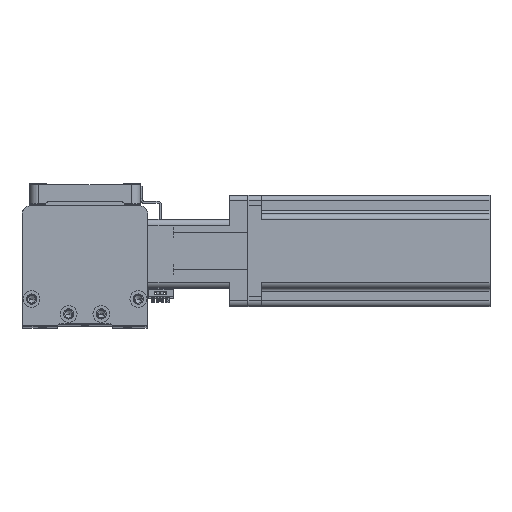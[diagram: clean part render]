
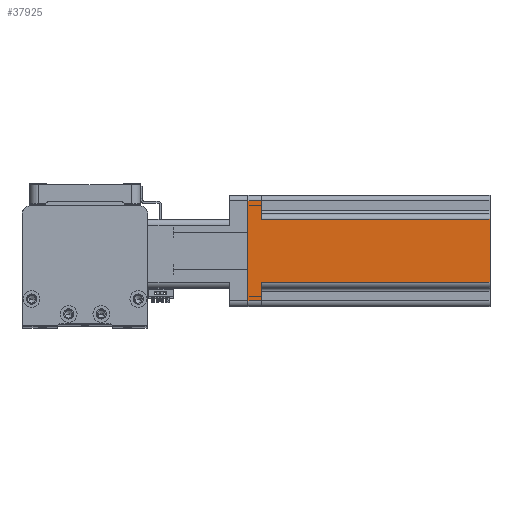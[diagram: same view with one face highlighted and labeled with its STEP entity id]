
A CAD part, top view. The second image highlights one B-rep face of the part: STEP entity #37925.
In plain terms, the highlighted planar face has unit normal (0, 0, 1) as drawn and (1, 0, 0) by its records, which use the part's own axes.
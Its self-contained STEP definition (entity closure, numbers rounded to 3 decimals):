
#374 = VERTEX_POINT ( 'NONE', #38962 ) ;
#1059 = DIRECTION ( 'NONE',  ( 0., 0., -1. ) ) ;
#1097 = LINE ( 'NONE', #6061, #34954 ) ;
#1336 = EDGE_LOOP ( 'NONE', ( #28792, #39660, #22031, #8947, #34646, #23848, #43478, #38681 ) ) ;
#3037 = CARTESIAN_POINT ( 'NONE',  ( 30., 17., 7.5 ) ) ;
#3588 = VERTEX_POINT ( 'NONE', #37634 ) ;
#4788 = DIRECTION ( 'NONE',  ( -1., 0., 0. ) ) ;
#6061 = CARTESIAN_POINT ( 'NONE',  ( 30., 30., 7.5 ) ) ;
#6406 = EDGE_CURVE ( 'NONE', #12796, #17357, #24557, .T. ) ;
#6485 = LINE ( 'NONE', #10584, #24462 ) ;
#6598 = VERTEX_POINT ( 'NONE', #21945 ) ;
#7823 = EDGE_CURVE ( 'NONE', #26651, #6598, #19161, .T. ) ;
#8011 = DIRECTION ( 'NONE',  ( 0., 1., 0. ) ) ;
#8170 = EDGE_CURVE ( 'NONE', #374, #31197, #9110, .T. ) ;
#8231 = EDGE_CURVE ( 'NONE', #31197, #26651, #35941, .T. ) ;
#8285 = DIRECTION ( 'NONE',  ( 0., -1., 0. ) ) ;
#8947 = ORIENTED_EDGE ( 'NONE', *, *, #7823, .T. ) ;
#9110 = LINE ( 'NONE', #24660, #25989 ) ;
#9476 = DIRECTION ( 'NONE',  ( 0., 1., 0. ) ) ;
#10156 = VECTOR ( 'NONE', #43040, 1000. ) ;
#10584 = CARTESIAN_POINT ( 'NONE',  ( 30., 27., 130.7 ) ) ;
#11360 = CARTESIAN_POINT ( 'NONE',  ( 30., -30., 130.7 ) ) ;
#12679 = CARTESIAN_POINT ( 'NONE',  ( 30., 17., 130.7 ) ) ;
#12796 = VERTEX_POINT ( 'NONE', #3037 ) ;
#13671 = FACE_OUTER_BOUND ( 'NONE', #1336, .T. ) ;
#14456 = VECTOR ( 'NONE', #43444, 1000. ) ;
#14539 = VECTOR ( 'NONE', #8011, 1000. ) ;
#15022 = AXIS2_PLACEMENT_3D ( 'NONE', #25044, #4788, #28384 ) ;
#17105 = CARTESIAN_POINT ( 'NONE',  ( 30., -27., 7.5 ) ) ;
#17357 = VERTEX_POINT ( 'NONE', #12679 ) ;
#18054 = CARTESIAN_POINT ( 'NONE',  ( 30., -30., 0. ) ) ;
#19161 = LINE ( 'NONE', #39764, #10156 ) ;
#20028 = CARTESIAN_POINT ( 'NONE',  ( 30., 17., 130.7 ) ) ;
#20278 = CARTESIAN_POINT ( 'NONE',  ( 30., -17., 7.5 ) ) ;
#21426 = DIRECTION ( 'NONE',  ( 0., 1., 0. ) ) ;
#21945 = CARTESIAN_POINT ( 'NONE',  ( 30., -27., 0. ) ) ;
#22031 = ORIENTED_EDGE ( 'NONE', *, *, #8231, .T. ) ;
#23596 = CARTESIAN_POINT ( 'NONE',  ( 30., 27., 0. ) ) ;
#23848 = ORIENTED_EDGE ( 'NONE', *, *, #39148, .T. ) ;
#23888 = VECTOR ( 'NONE', #8285, 1000. ) ;
#24462 = VECTOR ( 'NONE', #37517, 1000. ) ;
#24557 = LINE ( 'NONE', #20028, #14456 ) ;
#24660 = CARTESIAN_POINT ( 'NONE',  ( 30., -17., 7.5 ) ) ;
#25044 = CARTESIAN_POINT ( 'NONE',  ( 30., -30., 130.7 ) ) ;
#25989 = VECTOR ( 'NONE', #1059, 1000. ) ;
#26651 = VERTEX_POINT ( 'NONE', #17105 ) ;
#28384 = DIRECTION ( 'NONE',  ( 0., 0., 1. ) ) ;
#28426 = VECTOR ( 'NONE', #21426, 1000. ) ;
#28453 = CARTESIAN_POINT ( 'NONE',  ( 30., -30., 7.5 ) ) ;
#28792 = ORIENTED_EDGE ( 'NONE', *, *, #43556, .F. ) ;
#30677 = VERTEX_POINT ( 'NONE', #23596 ) ;
#31197 = VERTEX_POINT ( 'NONE', #20278 ) ;
#32480 = LINE ( 'NONE', #11360, #14539 ) ;
#34646 = ORIENTED_EDGE ( 'NONE', *, *, #40351, .T. ) ;
#34954 = VECTOR ( 'NONE', #9476, 1000. ) ;
#35941 = LINE ( 'NONE', #28453, #23888 ) ;
#37323 = LINE ( 'NONE', #18054, #28426 ) ;
#37517 = DIRECTION ( 'NONE',  ( 0., 0., 1. ) ) ;
#37634 = CARTESIAN_POINT ( 'NONE',  ( 30., 27., 7.5 ) ) ;
#37925 = ADVANCED_FACE ( 'NONE', ( #13671 ), #38179, .F. ) ;
#38179 = PLANE ( 'NONE',  #15022 ) ;
#38681 = ORIENTED_EDGE ( 'NONE', *, *, #6406, .T. ) ;
#38814 = EDGE_CURVE ( 'NONE', #12796, #3588, #1097, .T. ) ;
#38962 = CARTESIAN_POINT ( 'NONE',  ( 30., -17., 130.7 ) ) ;
#39148 = EDGE_CURVE ( 'NONE', #30677, #3588, #6485, .T. ) ;
#39660 = ORIENTED_EDGE ( 'NONE', *, *, #8170, .T. ) ;
#39764 = CARTESIAN_POINT ( 'NONE',  ( 30., -27., 130.7 ) ) ;
#40351 = EDGE_CURVE ( 'NONE', #6598, #30677, #37323, .T. ) ;
#43040 = DIRECTION ( 'NONE',  ( 0., 0., -1. ) ) ;
#43444 = DIRECTION ( 'NONE',  ( 0., 0., 1. ) ) ;
#43478 = ORIENTED_EDGE ( 'NONE', *, *, #38814, .F. ) ;
#43556 = EDGE_CURVE ( 'NONE', #374, #17357, #32480, .T. ) ;
